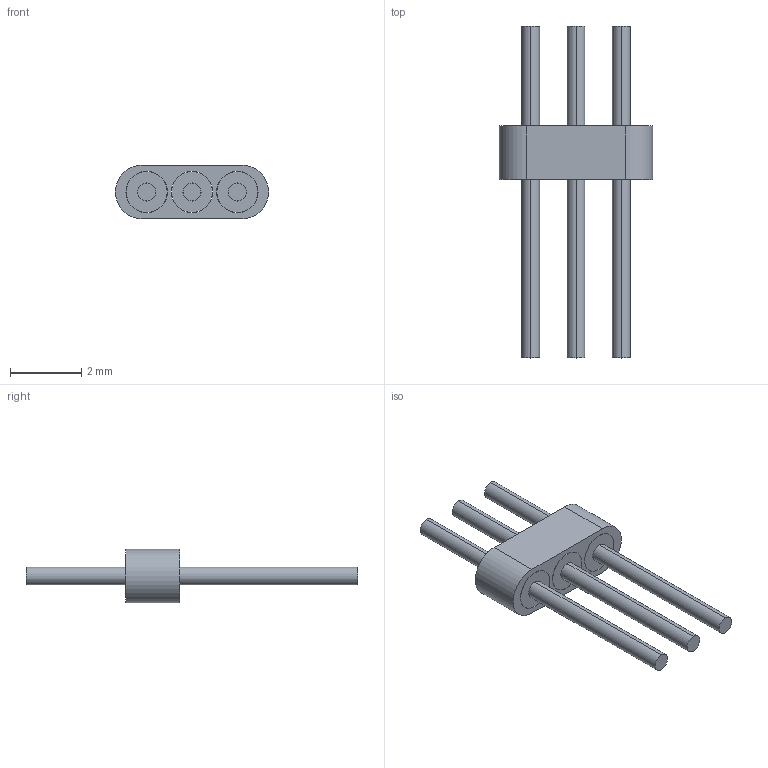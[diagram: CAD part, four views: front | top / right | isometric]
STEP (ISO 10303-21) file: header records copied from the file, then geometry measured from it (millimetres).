
FILE_DESCRIPTION (( 'STEP AP203' ), '1' );
FILE_NAME ('3о.STEP', '2023-11-09T01:32:21', ( 'China' ), ( 'Microsoft' ), 'SwSTEP 2.0', 'SolidWorks 2019', '' );
FILE_SCHEMA (( 'CONFIG_CONTROL_DESIGN' ));
Length unit declared in the file: millimetre
Products named in the file (1): 3о
Bounding box: 4.29 x 9.3 x 1.5 mm (x, y, z)
Volume: 13.4 mm3; surface area: 110.9 mm2
Topology: 7 solids, 7 shells, 42 faces, 84 edges, 56 vertices
Faces by surface type: cylinder 26, plane 16
Entity records: 1209 total; most frequent: DIRECTION 222, CARTESIAN_POINT 183, ORIENTED_EDGE 168, AXIS2_PLACEMENT_3D 95, EDGE_CURVE 84, VERTEX_POINT 56, EDGE_LOOP 54, CIRCLE 52
